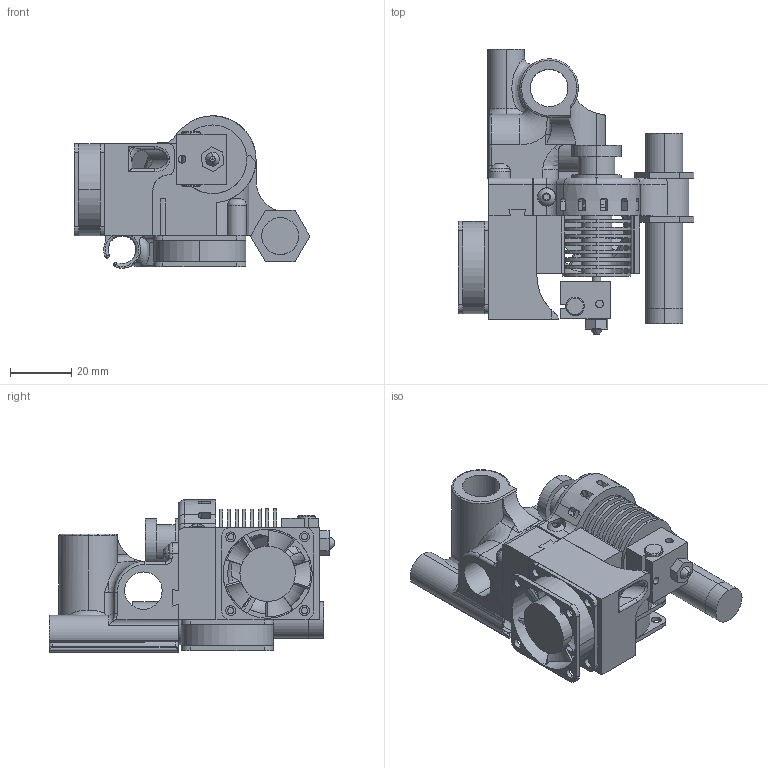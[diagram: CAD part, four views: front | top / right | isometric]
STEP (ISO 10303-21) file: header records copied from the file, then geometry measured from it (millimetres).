
FILE_DESCRIPTION (( 'STEP AP214' ), '1' );
FILE_NAME ('04-Hotend.STEP', '2016-03-22T10:27:53', ( '' ), ( '' ), 'SwSTEP 2.0', 'SolidWorks 2014', '' );
FILE_SCHEMA (( 'AUTOMOTIVE_DESIGN' ));
Length unit declared in the file: millimetre
Products named in the file (17): E3Dv6-fanduct; E3Dv6-mount bottom; E3Dv6-mount medium; 04-Hotend; Tornillo ISO7380 M3x10; V6-HEATER; V6-175-SINK; Tornillo ISO7380 M3x25; E3Dv6 1.75 Uni model; V6-NOZZLE-175-035; E3dv6-mount; 30mm fan_001; V6-175-BREAK; Tuerca DIN934 M3; V6-BLOCK; E3Dv6-mount top; sensor capacitivo12
Assembly tree (18 placements, depth 3):
  04-Hotend
    E3Dv6 1.75 Uni model
      V6-BLOCK
      V6-175-BREAK
      V6-175-SINK
      V6-NOZZLE-175-035
      V6-HEATER
    E3dv6-mount
      E3Dv6-mount bottom
      E3Dv6-mount medium
      E3Dv6-mount top
    E3Dv6-fanduct
    sensor capacitivo12
    30mm fan_001  x2
    Tornillo ISO7380 M3x25
    Tuerca DIN934 M3  x2
    Tornillo ISO7380 M3x10
Bounding box: 76.69 x 92.99 x 49.57 mm (x, y, z)
Volume: 75008.1 mm3; surface area: 55699.6 mm2
Topology: 18 solids, 19 shells, 882 faces, 2276 edges, 1474 vertices
Faces by surface type: cylinder 416, plane 314, bspline 71, cone 41, torus 36, sphere 4
Entity records: 34200 total; most frequent: CARTESIAN_POINT 15383, ORIENTED_EDGE 3956, DIRECTION 3594, EDGE_CURVE 1978, AXIS2_PLACEMENT_3D 1364, VERTEX_POINT 1283, EDGE_LOOP 885, LINE 866
